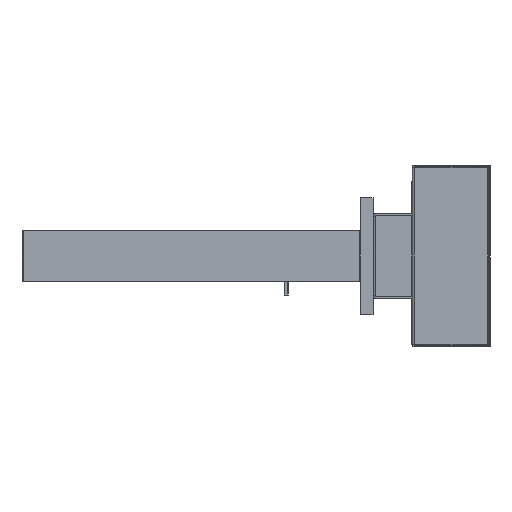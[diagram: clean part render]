
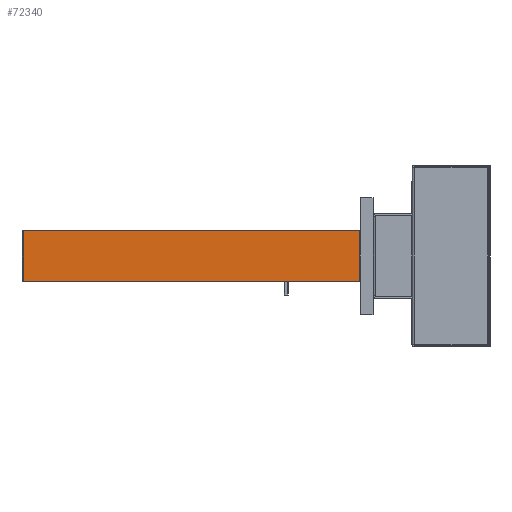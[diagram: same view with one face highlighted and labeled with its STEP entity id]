
A CAD part, left-side view. The second image highlights one B-rep face of the part: STEP entity #72340.
In plain terms, the highlighted planar face has unit normal (-1, 0, 0) as drawn and (0, 0, 1) by its records, which use the part's own axes.
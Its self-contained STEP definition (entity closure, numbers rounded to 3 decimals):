
#1 = CARTESIAN_POINT ( 'NONE',  ( -20., 130., 7.5 ) ) ;
#1849 = CARTESIAN_POINT ( 'NONE',  ( -20., 130., 7.5 ) ) ;
#7816 = EDGE_CURVE ( 'NONE', #73512, #59591, #52624, .T. ) ;
#7897 = DIRECTION ( 'NONE',  ( 0., 0., -1. ) ) ;
#14923 = DIRECTION ( 'NONE',  ( 0., -1., 0. ) ) ;
#19069 = VECTOR ( 'NONE', #85392, 1000. ) ;
#19502 = VECTOR ( 'NONE', #47726, 1000. ) ;
#20889 = EDGE_CURVE ( 'NONE', #73512, #74789, #55437, .T. ) ;
#22143 = EDGE_CURVE ( 'NONE', #59591, #69293, #22663, .T. ) ;
#22663 = LINE ( 'NONE', #43011, #74806 ) ;
#26714 = ORIENTED_EDGE ( 'NONE', *, *, #22143, .F. ) ;
#29290 = EDGE_LOOP ( 'NONE', ( #87622, #35752, #26714, #51410 ) ) ;
#29439 = DIRECTION ( 'NONE',  ( 1., 0., 0. ) ) ;
#31779 = CARTESIAN_POINT ( 'NONE',  ( -20., 130., 7.5 ) ) ;
#35752 = ORIENTED_EDGE ( 'NONE', *, *, #80546, .T. ) ;
#36867 = PLANE ( 'NONE',  #86735 ) ;
#41425 = LINE ( 'NONE', #92142, #19502 ) ;
#43011 = CARTESIAN_POINT ( 'NONE',  ( 20., 130., 7.5 ) ) ;
#47726 = DIRECTION ( 'NONE',  ( 1., 0., 0. ) ) ;
#50814 = CARTESIAN_POINT ( 'NONE',  ( -20., -128.5, 7.5 ) ) ;
#51410 = ORIENTED_EDGE ( 'NONE', *, *, #7816, .F. ) ;
#52624 = LINE ( 'NONE', #1, #55007 ) ;
#54699 = CARTESIAN_POINT ( 'NONE',  ( 20., 130., 7.5 ) ) ;
#55007 = VECTOR ( 'NONE', #29439, 1000. ) ;
#55437 = LINE ( 'NONE', #31779, #19069 ) ;
#56242 = FACE_OUTER_BOUND ( 'NONE', #29290, .T. ) ;
#56551 = CARTESIAN_POINT ( 'NONE',  ( 20., -128.5, 7.5 ) ) ;
#58144 = DIRECTION ( 'NONE',  ( -1., 0., 0. ) ) ;
#59591 = VERTEX_POINT ( 'NONE', #54699 ) ;
#69293 = VERTEX_POINT ( 'NONE', #56551 ) ;
#72340 = ADVANCED_FACE ( 'NONE', ( #56242 ), #36867, .F. ) ;
#73512 = VERTEX_POINT ( 'NONE', #1849 ) ;
#74789 = VERTEX_POINT ( 'NONE', #50814 ) ;
#74806 = VECTOR ( 'NONE', #14923, 1000. ) ;
#80546 = EDGE_CURVE ( 'NONE', #74789, #69293, #41425, .T. ) ;
#85392 = DIRECTION ( 'NONE',  ( 0., -1., 0. ) ) ;
#86735 = AXIS2_PLACEMENT_3D ( 'NONE', #94862, #7897, #58144 ) ;
#87622 = ORIENTED_EDGE ( 'NONE', *, *, #20889, .T. ) ;
#92142 = CARTESIAN_POINT ( 'NONE',  ( -20., -128.5, 7.5 ) ) ;
#94862 = CARTESIAN_POINT ( 'NONE',  ( -20., 130., 7.5 ) ) ;
